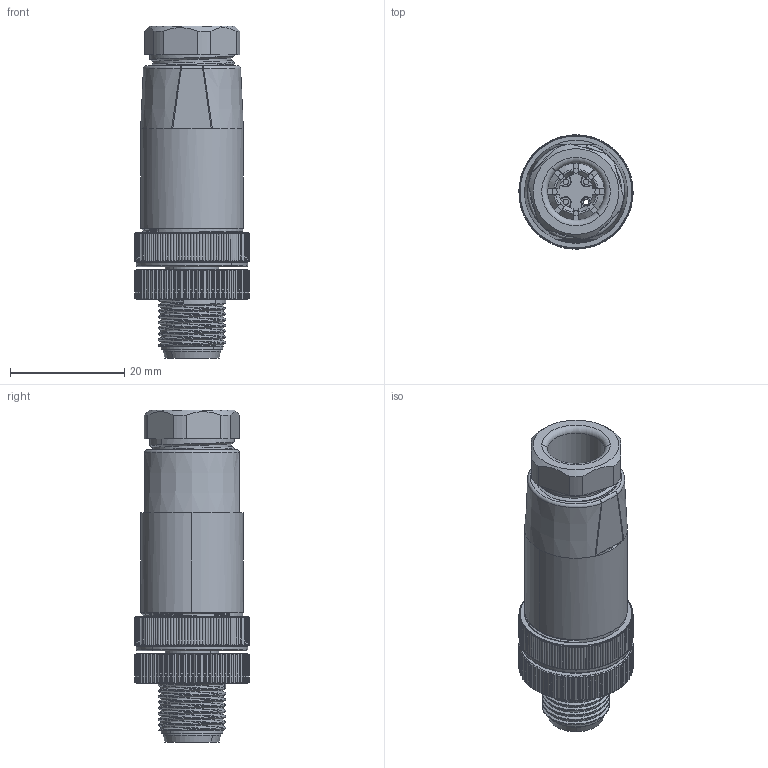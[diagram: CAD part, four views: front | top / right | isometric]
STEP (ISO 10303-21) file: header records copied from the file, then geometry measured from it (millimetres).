
FILE_DESCRIPTION((''),'2;1');
FILE_NAME('XC-M12-WK-PG9','2025-06-20T16:45:22',('lyj'),(''),'CREO PARAMETRIC BY PTC INC, 2019010','CREO PARAMETRIC BY PTC INC, 2019010','');
FILE_SCHEMA(('CONFIG_CONTROL_DESIGN'));
Products named in the file (1): XC-M12-WK-PG9
Bounding box: 20 x 20 x 58.18 mm (x, y, z)
Volume: 8029.3 mm3; surface area: 11843.7 mm2
Topology: 1 solids, 10 shells, 1445 faces, 3925 edges, 2515 vertices
Faces by surface type: cylinder 578, cone 417, plane 342, bspline 46, extrusion 28, torus 24, sphere 10
Entity records: 70690 total; most frequent: CARTESIAN_POINT 35953, ORIENTED_EDGE 7830, DIRECTION 6599, EDGE_CURVE 3915, AXIS2_PLACEMENT_3D 2646, VERTEX_POINT 2515, EDGE_LOOP 1516, FACE_OUTER_BOUND 1445
